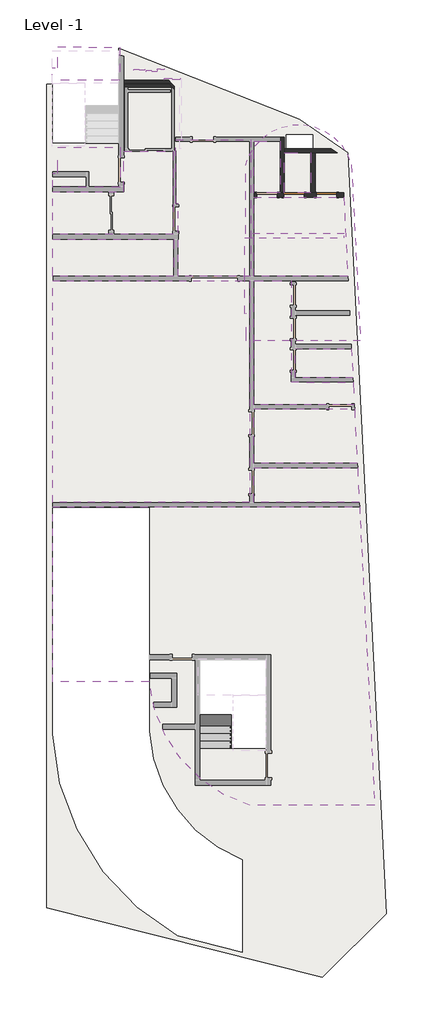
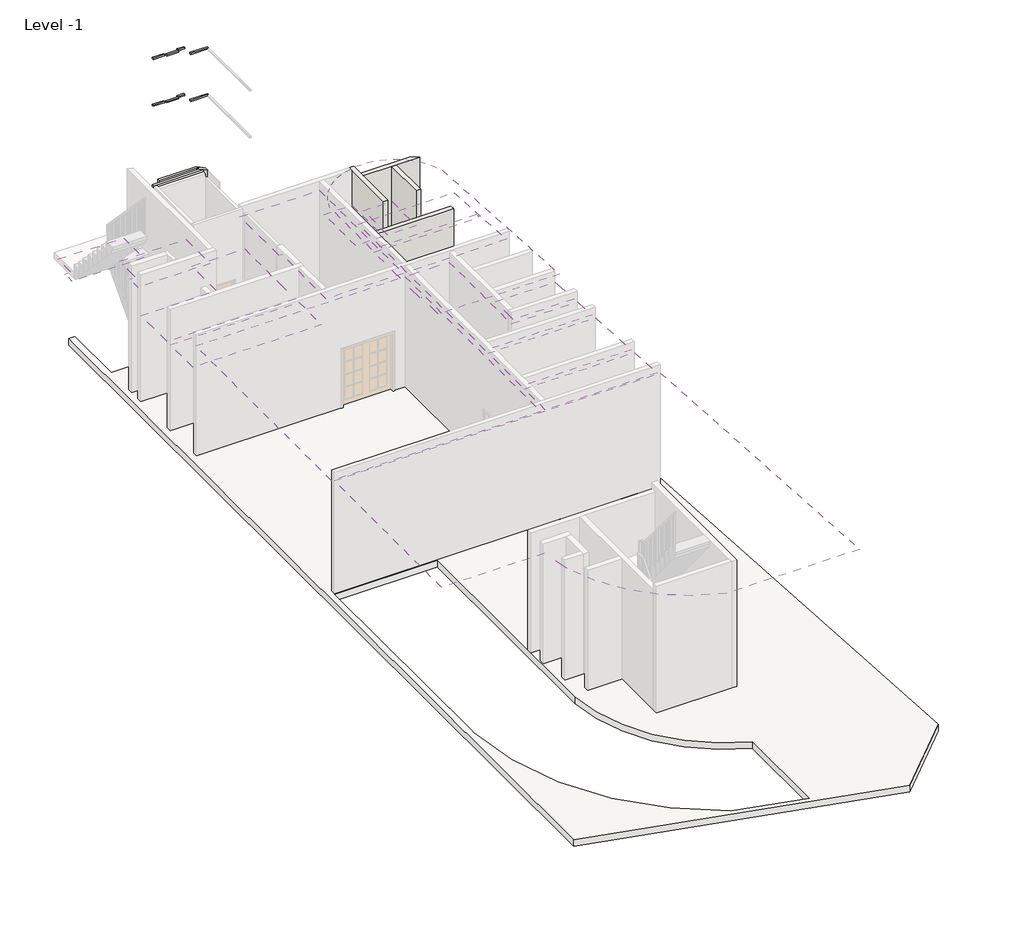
# One storey, part 2 of 3: 15 coverings, 8 proxies, 7 walls, 2 doors, 1 slab, 1 stair flight.
"""IFC4 building model written with IfcOpenShell, lengths in millimetres."""

from ifc_helpers import new_model, si_unit, point, frame, frame_2d, origin, place, context, project, spatial, polyline, circle_curve, trimmed, segment, composite_curve, outline, extrude, faceted_brep, transform, mapped, element, save
from ifc_brep_helpers import plane_surface, cylinder_surface, revolved_surface, advanced_brep
from components import m_single_flush_0762_x_2032mm_6f5f7af1

model = new_model("IFC4")

# Units and contexts
model_context = context("Model", 3, world=origin())
ifc_project = project(units=[si_unit("LENGTHUNIT", "METRE", prefix="MILLI")], contexts=[model_context])

# Site, building, storey
site = spatial("IfcSite", under=ifc_project)
building = spatial("IfcBuilding", under=site)
storey = spatial("IfcBuildingStorey", under=building, Name="Level -1", Elevation=-3500.0)

# Proxies
placement = place(None, origin())
element("IfcBuildingElementProxy", 1, Name="Reveal", ObjectType="Reveal", at=placement, inside=storey, context=model_context, shape_type="SweptSolid", body=[
    extrude(outline(polyline([(2988.093022, 13051.3286894), (2988.093022, 13101.3286894), (3389.832395, 13101.3286894), (3389.832395, 13051.3286894), (2988.093022, 13051.3286894)])), frame((0.0, 0.0, 5411.0), z_axis=(0.0, 0.0, 1.0), x_axis=(1.0, 0.0, 0.0)), (0.0, 0.0, 1.0), 50.0),
])
element("IfcBuildingElementProxy", 2, Name="Reveal", ObjectType="Reveal", at=placement, inside=storey, context=model_context, shape_type="SweptSolid", body=[
    extrude(outline(polyline([(3439.832395, 13006.9409286), (3439.832395, 13056.9409286), (3860.156273, 13056.9409286), (3860.156273, 13006.9409286), (3439.832395, 13006.9409286)])), frame((0.0, 0.0, 5411.0), z_axis=(0.0, 0.0, 1.0), x_axis=(1.0, 0.0, 0.0)), (0.0, 0.0, 1.0), 50.0),
])
element("IfcBuildingElementProxy", 3, Name="Reveal", ObjectType="Reveal", at=placement, inside=storey, context=model_context, shape_type="SweptSolid", body=[
    extrude(outline(polyline([(3860.156273, 13071.3286894), (3860.156273, 13121.3286894), (4110.156273, 13121.3286894), (4110.156273, 13071.3286894), (3860.156273, 13071.3286894)])), frame((0.0, 0.0, 5411.0), z_axis=(0.0, 0.0, 1.0), x_axis=(1.0, 0.0, 0.0)), (0.0, 0.0, 1.0), 50.0),
])
element("IfcBuildingElementProxy", 4, Name="Reveal", ObjectType="Reveal", at=placement, inside=storey, context=model_context, shape_type="SweptSolid", body=[
    extrude(outline(polyline([(4110.156273, 12706.9436225), (4110.156273, 12756.9436225), (4720.156273, 12756.9436225), (4720.156273, 12706.9436225), (4110.156273, 12706.9436225)])), frame((0.0, 0.0, 5411.0), z_axis=(0.0, 0.0, 1.0), x_axis=(1.0, 0.0, 0.0)), (0.0, 0.0, 1.0), 50.0),
])
element("IfcBuildingElementProxy", 5, Name="Reveal", ObjectType="Reveal", at=placement, inside=storey, context=model_context, shape_type="SweptSolid", body=[
    extrude(outline(polyline([(2988.093022, 13051.3286894), (2988.093022, 13101.3286894), (3389.832395, 13101.3286894), (3389.832395, 13051.3286894), (2988.093022, 13051.3286894)])), frame((0.0, 0.0, 3669.8841872), z_axis=(0.0, 0.0, 1.0), x_axis=(1.0, 0.0, 0.0)), (0.0, 0.0, 1.0), 50.0),
])
element("IfcBuildingElementProxy", 6, Name="Reveal", ObjectType="Reveal", at=placement, inside=storey, context=model_context, shape_type="SweptSolid", body=[
    extrude(outline(polyline([(3439.832395, 13006.9409286), (3439.832395, 13056.9409286), (3860.156273, 13056.9409286), (3860.156273, 13006.9409286), (3439.832395, 13006.9409286)])), frame((0.0, 0.0, 3669.8841872), z_axis=(0.0, 0.0, 1.0), x_axis=(1.0, 0.0, 0.0)), (0.0, 0.0, 1.0), 50.0),
])
element("IfcBuildingElementProxy", 7, Name="Reveal", ObjectType="Reveal", at=placement, inside=storey, context=model_context, shape_type="SweptSolid", body=[
    extrude(outline(polyline([(3860.156273, 13071.3286894), (3860.156273, 13121.3286894), (4110.156273, 13121.3286894), (4110.156273, 13071.3286894), (3860.156273, 13071.3286894)])), frame((0.0, 0.0, 3669.8841872), z_axis=(0.0, 0.0, 1.0), x_axis=(1.0, 0.0, 0.0)), (0.0, 0.0, 1.0), 50.0),
])
element("IfcBuildingElementProxy", 8, Name="Reveal", ObjectType="Reveal", at=placement, inside=storey, context=model_context, shape_type="SweptSolid", body=[
    extrude(outline(polyline([(4110.156273, 12706.9436225), (4110.156273, 12756.9436225), (4720.156273, 12756.9436225), (4720.156273, 12706.9436225), (4110.156273, 12706.9436225)])), frame((0.0, 0.0, 3669.8841872), z_axis=(0.0, 0.0, 1.0), x_axis=(1.0, 0.0, 0.0)), (0.0, 0.0, 1.0), 50.0),
])

# Coverings
element("IfcCovering", 9, ObjectType="600 x 600mm Grid", at=placement, inside=storey, context=model_context, shape_type="SweptSolid", body=[
    extrude(outline(polyline([(-50.0290025, -3072.9476624), (-50.0290025, 5202.6968455), (7299.9434137, 5202.6968455), (7299.9434137, -3072.9476624), (-50.0290025, -3072.9476624)])), frame((0.0, 0.0, 600.0), z_axis=(0.0, 0.0, 1.0), x_axis=(1.0, 0.0, 0.0)), (0.0, 0.0, 1.0), 52.0),
])
element("IfcCovering", 10, ObjectType="600 x 600mm Grid", at=placement, inside=storey, context=model_context, shape_type="SweptSolid", body=[
    extrude(outline(composite_curve([segment(polyline([(-50.0290025, -3232.9476624), (11404.9288213, -3232.9476624), (11972.1615045, -14376.8259975), (7309.7008111, -14376.8259975)]), True, "CONTINUOUS"), segment(trimmed(circle_curve(frame_2d((8889.126685, -9261.3994215)), 5353.7066734), [point((7309.7008111, -14376.8259975))], [point((3559.7912334, -9771.6530742))], False, "CARTESIAN"), True, "CONTINUOUS"), segment(polyline([(3559.7912334, -9771.6530742), (-50.0290025, -9771.6530742), (-50.0290025, -3232.9476624)]), True, "CONTINUOUS")], self_intersect=False), holes=[polyline([(8099.9667664, -12235.6929429), (8099.9667664, -8760.5298497), (5269.992527, -8760.5298497), (5269.992527, -11535.2406086), (5269.992527, -12235.6929429), (8099.9667664, -12235.6929429)])]), frame((0.0, 0.0, 700.0), z_axis=(0.0, 0.0, 1.0), x_axis=(1.0, 0.0, 0.0)), (0.0, 0.0, 1.0), 52.0),
])
element("IfcCovering", 11, ObjectType="600 x 600mm Grid", at=placement, inside=storey, context=model_context, shape_type="SweptSolid", body=[
    extrude(outline(polyline([(9009.9434137, 2674.1604885), (11104.4508989, 2670.2548647), (11159.9383106, 1580.1467241), (9009.9434137, 1584.1583086), (9009.9434137, 2674.1604885)])), frame((0.0, 0.0, 600.0), z_axis=(0.0, 0.0, 1.0), x_axis=(1.0, 0.0, 0.0)), (0.0, 0.0, 1.0), 52.0),
])
element("IfcCovering", 12, ObjectType="600 x 600mm Grid", at=placement, inside=storey, context=model_context, shape_type="SweptSolid", body=[
    extrude(outline(polyline([(8849.9434137, 1424.4565673), (11168.0832316, 1420.1312483), (11210.8911696, 579.1246079), (7459.9434137, 579.1246079), (7459.9434137, 5202.6968455), (8849.9434137, 5202.6968455), (8849.9434137, 1424.4565673)])), frame((0.0, 0.0, 600.0), z_axis=(0.0, 0.0, 1.0), x_axis=(1.0, 0.0, 0.0)), (0.0, 0.0, 1.0), 52.0),
])
element("IfcCovering", 13, ObjectType="600 x 600mm Grid", at=placement, inside=storey, context=model_context, shape_type="SweptSolid", body=[
    extrude(outline(polyline([(7459.9434137, 419.1246079), (11219.0353028, 419.1246079), (11322.4694728, -1612.9476624), (7459.9434137, -1612.9476624), (7459.9434137, 419.1246079)])), frame((0.0, 0.0, 600.0), z_axis=(0.0, 0.0, 1.0), x_axis=(1.0, 0.0, 0.0)), (0.0, 0.0, 1.0), 52.0),
])
element("IfcCovering", 14, ObjectType="600 x 600mm Grid", at=placement, inside=storey, context=model_context, shape_type="SweptSolid", body=[
    extrude(outline(polyline([(7459.9434137, -1772.9476624), (11330.613606, -1772.9476624), (11396.7846881, -3072.9476624), (7459.9434137, -3072.9476624), (7459.9434137, -1772.9476624)])), frame((0.0, 0.0, 600.0), z_axis=(0.0, 0.0, 1.0), x_axis=(1.0, 0.0, 0.0)), (0.0, 0.0, 1.0), 52.0),
])
element("IfcCovering", 15, ObjectType="600 x 600mm Grid", at=placement, inside=storey, context=model_context, shape_type="SweptSolid", body=[
    extrude(outline(polyline([(7459.9434137, 8319.9753316), (10816.8754244, 8319.9753316), (10967.4033609, 5362.6968455), (7459.9434137, 5362.6968455), (7459.9434137, 8319.9753316)])), frame((0.0, 0.0, 600.0), z_axis=(0.0, 0.0, 1.0), x_axis=(1.0, 0.0, 0.0)), (0.0, 0.0, 1.0), 52.0),
])
element("IfcCovering", 16, ObjectType="600 x 600mm Grid", at=placement, inside=storey, context=model_context, shape_type="SweptSolid", body=[
    extrude(outline(polyline([(-50.0290025, 5362.6968455), (-50.0290025, 6751.9670663), (4469.6770156, 6751.9670663), (4469.6770156, 5362.6968455), (-50.0290025, 5362.6968455)])), frame((0.0, 0.0, -300.0), z_axis=(0.0, 0.0, 1.0), x_axis=(1.0, 0.0, 0.0)), (0.0, 0.0, 1.0), 52.0),
])
element("IfcCovering", 17, ObjectType="600 x 600mm Grid", at=placement, inside=storey, context=model_context, shape_type="SweptSolid", body=[
    extrude(outline(polyline([(-50.0290025, 6931.9670663), (-50.0290025, 8531.9436159), (2599.6668671, 8531.9436159), (2599.6668671, 10031.9436225), (4454.958768, 10031.9436225), (4454.958768, 8066.9242252), (4459.6770164, 8066.9242252), (4459.6770164, 6931.9670663), (-50.0290025, 6931.9670663)])), frame((0.0, 0.0, -300.0), z_axis=(0.0, 0.0, 1.0), x_axis=(1.0, 0.0, 0.0)), (0.0, 0.0, 1.0), 52.0),
])
element("IfcCovering", 18, ObjectType="600 x 600mm Grid", at=placement, inside=storey, context=model_context, shape_type="SweptSolid", body=[
    extrude(outline(polyline([(7459.9434137, 8479.9753316), (7459.9434137, 10400.8522913), (8438.9783115, 10400.8522913), (8438.9783115, 8479.9753316), (7459.9434137, 8479.9753316)])), frame((0.0, 0.0, -300.0), z_axis=(0.0, 0.0, 1.0), x_axis=(1.0, 0.0, 0.0)), (0.0, 0.0, 1.0), 52.0),
])
element("IfcCovering", 19, ObjectType="600 x 600mm Grid", at=placement, inside=storey, context=model_context, shape_type="SweptSolid", body=[
    extrude(outline(polyline([(9588.9783115, 9974.899122), (9588.9783115, 8479.9753316), (8598.9783115, 8479.9753316), (8598.9783115, 9974.899122), (9588.9783115, 9974.899122)])), frame((0.0, 0.0, -300.0), z_axis=(0.0, 0.0, 1.0), x_axis=(1.0, 0.0, 0.0)), (0.0, 0.0, 1.0), 52.0),
])
element("IfcCovering", 20, ObjectType="600 x 600mm Grid", at=placement, inside=storey, context=model_context, shape_type="SweptSolid", body=[
    extrude(outline(polyline([(4539.958768, 8066.9242252), (4539.958768, 10466.9242252), (7339.6770164, 10466.9242252), (7339.6770164, 5366.9242252), (4639.6770164, 5366.9242252), (4639.6770164, 8066.9242252), (4539.958768, 8066.9242252)])), frame((0.0, 0.0, 600.0), z_axis=(0.0, 0.0, 1.0), x_axis=(1.0, 0.0, 0.0)), (0.0, 0.0, 1.0), 52.0),
])
element("IfcCovering", 21, ObjectType="600 x 600mm Grid", at=placement, inside=storey, context=model_context, shape_type="SweptSolid", body=[
    extrude(outline(composite_curve([segment(polyline([(7150.5392732, 6948.450989), (7150.5392732, 9509.6119752)]), True, "CONTINUOUS"), segment(trimmed(circle_curve(frame_2d((9131.2105116, 8980.9897456)), 2050.0000039), [point((7150.5392732, 9509.6119752))], [point((11105.4759403, 9533.0549888))], False, "CARTESIAN"), True, "CONTINUOUS"), segment(polyline([(11105.4759403, 9533.0549888), (11440.2894881, 2957.3506855), (7185.1048556, 2957.3506855), (7185.1048556, 3970.7828627), (7130.5392732, 3970.7828627), (7130.5392732, 5170.7828627), (7130.5392732, 6170.7828627), (7130.5392732, 6798.4082432), (10838.0678893, 6806.2697987), (10837.7498255, 6956.2694615), (7150.5392732, 6948.450989)]), True, "CONTINUOUS")], self_intersect=False)), frame((0.0, 0.0, 600.0), z_axis=(0.0, 0.0, 1.0), x_axis=(1.0, 0.0, 0.0)), (0.0, 0.0, 1.0), 52.0),
])
element("IfcCovering", 22, ObjectType="600 x 600mm Grid", at=placement, inside=storey, context=model_context, shape_type="SweptSolid", body=[
    extrude(outline(polyline([(2481.8607589, 10179.4957281), (2481.8607589, 8696.8748746), (-50.0421304, 8696.8748746), (-50.0421304, 9219.4957281), (149.9709975, 9219.4957281), (149.9709975, 10179.4957281), (2481.8607589, 10179.4957281)])), frame((0.0, 0.0, 650.0), z_axis=(0.0, 0.0, 1.0), x_axis=(1.0, 0.0, 0.0)), (0.0, 0.0, 1.0), 52.0),
])
element("IfcCovering", 23, ObjectType="600 x 600mm Grid", at=placement, inside=storey, context=model_context, shape_type="SweptSolid", body=[
    extrude(outline(polyline([(2454.9743495, 12688.8107611), (-60.0421304, 12688.8107611), (-60.0421304, 13143.419171), (149.9709975, 13143.419171), (149.9709975, 13943.419171), (2454.9743495, 13908.8107611), (2454.9743495, 12688.8107611)])), frame((0.0, 0.0, -1550.0), z_axis=(0.0, 0.0, 1.0), x_axis=(1.0, 0.0, 0.0)), (0.0, 0.0, 1.0), 52.0),
])

# Doors
m_single_flush_0762_x_2032mm_shape = m_single_flush_0762_x_2032mm_6f5f7af1(model_context)
element("IfcDoor", 24, ObjectType="M_Single-Flush : 0762 x 2032mm", at=placement, inside=storey, context=model_context, shape_type="MappedRepresentation", body=[
    mapped(m_single_flush_0762_x_2032mm_shape, transform((8959.7195871, 8399.9753316, -3500.0), x_axis=(-1.0, 0.0, 0.0), y_axis=(0.0, -1.0, 0.0), z_axis=(0.0, 0.0, 1.0))),
])
element("IfcDoor", 25, ObjectType="M_Single-Flush : 0762 x 2032mm", at=placement, inside=storey, context=model_context, shape_type="MappedRepresentation", body=[
    mapped(m_single_flush_0762_x_2032mm_shape, transform((10169.9783115, 8399.9753316, -3500.0), x_axis=(-1.0, 0.0, 0.0), y_axis=(0.0, -1.0, 0.0), z_axis=(0.0, 0.0, 1.0))),
])

# Slab
element("IfcSlab", 26, ObjectType="Standard Timber-sang Finish 2", at=placement, inside=storey, context=model_context, shape_type="AdvancedBrep", body=[
    advanced_brep(
    [(9156.5694815, 11238.6298521, -3741.0), (10957.1933497, 9989.3657475, -3741.0), (12403.1153427, -18417.281555, -3741.0), (10022.4900241, -20797.9068736, -3741.0), (-275.0290025, -18194.9820731, -3741.0), (-275.0290025, 12531.9436225, -3741.0), (-60.0290025, 12531.9436225, -3741.0), (-60.0290025, 10328.8506586, -3741.0), (2419.6668671, 10328.8506586, -3741.0), (2419.6668671, 12531.9436225, -3741.0), (2424.9709975, 12531.9436225, -3741.0), (2424.9709975, 13884.1086008, -3741.0), (4630.7168036, -19241.4894179, -3741.0), (7033.8183565, -19848.9262785, -3741.0), (7033.8183565, -19810.3775142, -3741.0), (7033.8183565, -16402.4446286, -3741.0), (3549.4089841, -11616.6597812, -3741.0), (3549.4089841, -3268.2489802, -3741.0), (-50.5910159, -3268.2489802, -3741.0), (-50.5910159, -11648.2489802, -3741.0), (-50.5910159, -11713.7810095, -3741.0), (7909.9709976, -8940.5298497, -3741.0), (5449.992527, -8940.5298497, -3741.0), (5449.992527, -12235.6929429, -3741.0), (7909.9709976, -12235.6929429, -3741.0), (9656.2956563, 10654.899122, -3741.0), (8676.2956563, 10654.899122, -3741.0), (8676.2956563, 10114.899122, -3741.0), (8676.2956563, 10104.899122, -3741.0), (9326.0873915, 10104.899122, -3741.0), (9656.2956563, 10104.899122, -3741.0), (10957.1933497, 9989.3657475, -3500.0), (9156.5694815, 11238.6298521, -3500.0), (2424.9709975, 13884.1086008, -3500.0), (2424.9709975, 12531.9436225, -3500.0), (2419.6668671, 12531.9436225, -3500.0), (2419.6668671, 10328.8506586, -3500.0), (-60.0290025, 10328.8506586, -3500.0), (-60.0290025, 12531.9436225, -3500.0), (-275.0290025, 12531.9436225, -3500.0), (-275.0290025, -18194.9820731, -3500.0), (10022.4900241, -20797.9068736, -3500.0), (12403.1153427, -18417.281555, -3500.0), (7033.8183565, -19848.9262785, -3500.0), (4630.7168036, -19241.4894179, -3500.0), (-50.5910159, -11713.7810095, -3500.0), (-50.5910159, -11648.2489802, -3500.0), (-50.5910159, -3268.2489802, -3500.0), (3549.4089841, -3268.2489802, -3500.0), (3549.4089841, -11616.6597812, -3500.0), (7033.8183565, -16402.4446286, -3500.0), (7033.8183565, -19810.3775142, -3500.0), (5449.992527, -8940.5298497, -3500.0), (7909.9709976, -8940.5298497, -3500.0), (7909.9709976, -12235.6929429, -3500.0), (5449.992527, -12235.6929429, -3500.0), (8676.2956563, 10654.899122, -3500.0), (9656.2956563, 10654.899122, -3500.0), (9656.2956563, 10104.899122, -3500.0), (9326.0873915, 10104.899122, -3500.0), (8676.2956563, 10104.899122, -3500.0), (8676.2956563, 10114.899122, -3500.0)],
    [
        (0, 1),
        (1, 2),
        (2, 3),
        (3, 4),
        (4, 5),
        (5, 6),
        (6, 7),
        (7, 8),
        (8, 9),
        (9, 10),
        (10, 11),
        (11, 0),
        (12, 13),
        (13, 14),
        (14, 15),
        (15, 16, circle_curve(frame((9044.1542392, -11277.4219597, -3741.0), z_axis=(0.0, 0.0, -1.0), x_axis=(1.0, 0.0, 0.0)), 5505.2073274)),
        (16, 17),
        (17, 18),
        (18, 19),
        (19, 20),
        (20, 12, circle_curve(frame((9044.1542392, -11277.4219597, -3741.0), z_axis=(0.0, 0.0, 1.0), x_axis=(1.0, 0.0, 0.0)), 9105.2073274)),
        (21, 22),
        (22, 23),
        (23, 24),
        (24, 21),
        (25, 26),
        (26, 27),
        (27, 28),
        (28, 29),
        (29, 30),
        (30, 25),
        (31, 32),
        (32, 33),
        (33, 34),
        (34, 35),
        (35, 36),
        (36, 37),
        (37, 38),
        (38, 39),
        (39, 40),
        (40, 41),
        (41, 42),
        (42, 31),
        (43, 44),
        (44, 45, circle_curve(frame((9044.1542392, -11277.4219597, -3500.0), z_axis=(0.0, 0.0, -1.0), x_axis=(1.0, 0.0, 0.0)), 9105.2073274)),
        (45, 46),
        (46, 47),
        (47, 48),
        (48, 49),
        (49, 50, circle_curve(frame((9044.1542392, -11277.4219597, -3500.0), z_axis=(0.0, 0.0, 1.0), x_axis=(1.0, 0.0, 0.0)), 5505.2073274)),
        (50, 51),
        (51, 43),
        (52, 53),
        (53, 54),
        (54, 55),
        (55, 52),
        (56, 57),
        (57, 58),
        (58, 59),
        (59, 60),
        (60, 61),
        (61, 56),
        (0, 32),
        (31, 1),
        (42, 2),
        (41, 3),
        (40, 4),
        (39, 5),
        (11, 33),
        (12, 44),
        (43, 13),
        (50, 15),
        (49, 16),
        (18, 47),
        (46, 19),
        (45, 20),
        (37, 7),
        (6, 38),
        (36, 8),
        (35, 9),
        (21, 53),
        (52, 22),
        (55, 23),
        (54, 24),
        (25, 57),
        (56, 26),
        (60, 28),
        (58, 30),
        (17, 48),
        (34, 10),
    ],
    [
        plane_surface(frame((9156.5694815, 11238.6298521, -3741.0), z_axis=(0.0, 0.0, -1.0000000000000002), x_axis=(0.82161982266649, -0.5700358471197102, 0.0))),
        plane_surface(frame((9156.5694815, 11238.6298521, -3500.0), z_axis=(0.0, 0.0, 1.0000000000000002), x_axis=(-0.82161982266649, 0.5700358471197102, 0.0))),
        plane_surface(frame((9156.5694815, 11238.6298521, -3741.0), z_axis=(0.5700358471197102, 0.82161982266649, 0.0), x_axis=(0.0, 0.0, 1.0))),
        plane_surface(frame((10957.1933497, 9989.3657475, -3741.0), z_axis=(0.9987070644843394, 0.05083502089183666, 0.0), x_axis=(0.0, 0.0, 1.0))),
        plane_surface(frame((12403.1153427, -18417.281555, -3741.0), z_axis=(0.7071067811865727, -0.7071067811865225, 0.0), x_axis=(0.0, 0.0, 1.0))),
        plane_surface(frame((10022.4900241, -20797.9068736, -3741.0), z_axis=(-0.24506421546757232, -0.9695068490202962, 0.0), x_axis=(0.0, 0.0, 1.0))),
        plane_surface(frame((-275.0290025, -18194.9820731, -3741.0), z_axis=(-1.0, 0.0, 0.0), x_axis=(0.0, 0.0, 1.0))),
        plane_surface(frame((2424.9709975, 13884.1086008, -3741.0), z_axis=(0.36576282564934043, 0.9307080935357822, 0.0), x_axis=(0.0, 0.0, 1.0))),
        plane_surface(frame((4630.7168036, -19241.4894179, -3741.0), z_axis=(0.24506421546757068, 0.9695068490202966, 0.0), x_axis=(0.0, 0.0, 1.0))),
        plane_surface(frame((7033.8183565, -19848.9262785, -3741.0), z_axis=(-1.0, 0.0, 0.0), x_axis=(0.0, 0.0, 1.0))),
        cylinder_surface(frame((9044.1542392, -11277.4219597, -3500.0), z_axis=(0.0, 0.0, -1.0), x_axis=(1.0, 0.0, 0.0)), 5505.2073274),
        plane_surface(frame((-50.5910159, -8447.4312466, -3741.0), z_axis=(1.0, 0.0, 0.0), x_axis=(0.0, 0.0, 1.0))),
        plane_surface(frame((-50.5910159, -11648.2489802, -3741.0), z_axis=(1.0, 0.0, 0.0), x_axis=(0.0, 0.0, 1.0))),
        revolved_surface(polyline([(18149.361566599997, -11277.4219597, -3500.0), (18149.361566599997, -11277.4219597, -3741.0)]), (9044.1542392, -11277.4219597, -3500.0), (0.0, 0.0, 1.0)),
        plane_surface(frame((-60.0290025, 12568.8506586, 10804.8), z_axis=(1.0, 0.0, 0.0), x_axis=(0.0, 0.0, -1.0))),
        plane_surface(frame((-60.0290025, 10328.8506586, 10804.8), z_axis=(0.0, 1.0, 0.0), x_axis=(0.0, 0.0, -1.0))),
        plane_surface(frame((2419.6668671, 10328.8506586, 10804.8), z_axis=(-1.0, 0.0, 0.0), x_axis=(0.0, 0.0, -1.0))),
        plane_surface(frame((7909.9709976, -8940.5298497, 10804.8), z_axis=(0.0, -1.0, 0.0), x_axis=(0.0, 0.0, -1.0))),
        plane_surface(frame((5449.992527, -8940.5298497, 10804.8), z_axis=(1.0, 0.0, 0.0), x_axis=(0.0, 0.0, -1.0))),
        plane_surface(frame((5449.992527, -12235.6929429, 10804.8), z_axis=(0.0, 1.0, 0.0), x_axis=(0.0, 0.0, -1.0))),
        plane_surface(frame((7909.9709976, -12235.6929429, 10804.8), z_axis=(-1.0, 0.0, 0.0), x_axis=(0.0, 0.0, -1.0))),
        plane_surface(frame((9656.2956563, 10654.899122, 7304.8), z_axis=(0.0, -1.0, 0.0), x_axis=(0.0, 0.0, -1.0))),
        plane_surface(frame((8676.2956563, 10654.899122, 7304.8), z_axis=(1.0, 0.0, 0.0), x_axis=(0.0, 0.0, -1.0))),
        plane_surface(frame((8676.2956563, 10104.899122, 7304.8), z_axis=(0.0, 1.0, 0.0), x_axis=(0.0, 0.0, -1.0))),
        plane_surface(frame((9656.2956563, 10104.899122, 7304.8), z_axis=(-1.0, 0.0, 0.0), x_axis=(0.0, 0.0, -1.0))),
        plane_surface(frame((3549.4089841, -3268.2489802, 304.8), z_axis=(0.0, -1.0, 0.0), x_axis=(0.0, 0.0, -1.0))),
        plane_surface(frame((3549.4089841, -11616.6597812, 304.8), z_axis=(-1.0, 0.0, 0.0), x_axis=(0.0, 0.0, -1.0))),
        plane_surface(frame((-275.0290025, 12531.9436225, -3741.0), z_axis=(0.0, 1.0, 0.0), x_axis=(0.0, 0.0, 1.0))),
        plane_surface(frame((2424.9709975, 12531.9436225, -3741.0), z_axis=(-1.0, 0.0, 0.0), x_axis=(0.0, 0.0, 1.0))),
    ],
    [
        (0, [[1, 2, 3, 4, 5, 6, 7, 8, 9, 10, 11, 12], [13, 14, 15, 16, 17, 18, 19, 20, 21], [22, 23, 24, 25], [26, 27, 28, 29, 30, 31]]),
        (1, [[32, 33, 34, 35, 36, 37, 38, 39, 40, 41, 42, 43], [44, 45, 46, 47, 48, 49, 50, 51, 52], [53, 54, 55, 56], [57, 58, 59, 60, 61, 62]]),
        (2, [[-1, 63, -32, 64]]),
        (3, [[-2, -64, -43, 65]]),
        (4, [[-3, -65, -42, 66]]),
        (5, [[-4, -66, -41, 67]]),
        (6, [[-5, -67, -40, 68]]),
        (7, [[-12, 69, -33, -63]]),
        (8, [[-13, 70, -44, 71]]),
        (9, [[-71, -52, -51, 72, -15, -14]]),
        (10, [[-72, -50, 73, -16]]),
        (11, [[74, -47, 75, -19]]),
        (12, [[-20, -75, -46, 76]]),
        (13, [[-21, -76, -45, -70]]),
        (14, [[77, -7, 78, -38]]),
        (15, [[-77, -37, 79, -8]]),
        (16, [[-79, -36, 80, -9]]),
        (17, [[81, -53, 82, -22]]),
        (18, [[-82, -56, 83, -23]]),
        (19, [[-83, -55, 84, -24]]),
        (20, [[-81, -25, -84, -54]]),
        (21, [[85, -57, 86, -26]]),
        (22, [[-86, -62, -61, 87, -28, -27]]),
        (23, [[-87, -60, -59, 88, -30, -29]]),
        (24, [[-85, -31, -88, -58]]),
        (25, [[89, -48, -74, -18]]),
        (26, [[-89, -17, -73, -49]]),
        (27, [[-68, -39, -78, -6]]),
        (27, [[90, -10, -80, -35]]),
        (28, [[-11, -90, -34, -69]]),
    ],
),
])

# Stair flight
element("IfcStairFlight", 27, ObjectType="190mm Depth", at=placement, inside=storey, context=model_context, shape_type="Brep", body=[
    faceted_brep([(5389.9709976, -11955.6929429, -3164.2857143), (5389.9709976, -12235.6929429, -3164.2857143), (6609.9709976, -12235.6929429, -3164.2857143), (6609.9709976, -11955.6929429, -3164.2857143), (5389.9709976, -11955.6929429, -3460.9262871), (5389.9709976, -11988.2820822, -3500.0), (5389.9709976, -12235.6929429, -3500.0), (6609.9709976, -12235.6929429, -3500.0), (6609.9709976, -11988.2820822, -3500.0), (6609.9709976, -11955.6929429, -3460.9262871), (5389.9709976, -11675.6929429, -2828.5714286), (5389.9709976, -11955.6929429, -2828.5714286), (6609.9709976, -11955.6929429, -2828.5714286), (6609.9709976, -11675.6929429, -2828.5714286), (5389.9709976, -11675.6929429, -3125.2120014), (6609.9709976, -11675.6929429, -3125.2120014), (5389.9709976, -11395.6929429, -2492.8571429), (5389.9709976, -11675.6929429, -2492.8571429), (6609.9709976, -11675.6929429, -2492.8571429), (6609.9709976, -11395.6929429, -2492.8571429), (5389.9709976, -11395.6929429, -2789.4977156), (6609.9709976, -11395.6929429, -2789.4977156), (5389.9709976, -11115.6929429, -2157.1428571), (5389.9709976, -11395.6929429, -2157.1428571), (6609.9709976, -11395.6929429, -2157.1428571), (6609.9709976, -11115.6929429, -2157.1428571), (5389.9709976, -11115.6929429, -2453.7834299), (6609.9709976, -11115.6929429, -2453.7834299), (5389.9709976, -10835.6929429, -1821.4285714), (5389.9709976, -11115.6929429, -1821.4285714), (6609.9709976, -11115.6929429, -1821.4285714), (6609.9709976, -10835.6929429, -1821.4285714), (5389.9709976, -10835.6929429, -2118.0691442), (6609.9709976, -10835.6929429, -2118.0691442), (5389.9709976, -10555.6929429, -1485.7142857), (5389.9709976, -10835.6929429, -1485.7142857), (6609.9709976, -10835.6929429, -1485.7142857), (6609.9709976, -10555.6929429, -1485.7142857), (5389.9709976, -10555.6929429, -1782.3548585), (6609.9709976, -10555.6929429, -1782.3548585), (5389.9709976, -10555.6929429, -1150.0), (6609.9709976, -10555.6929429, -1150.0), (6609.9709976, -10175.6929429, -1150.0), (5389.9709976, -10175.6929429, -1150.0), (5389.9709976, -10175.6929429, -1250.0), (5389.9709976, -10275.6929429, -1250.0), (5389.9709976, -10275.6929429, -1446.6405728), (6609.9709976, -10275.6929429, -1446.6405728), (6609.9709976, -10275.6929429, -1250.0), (6609.9709976, -10175.6929429, -1250.0)], [[[0, 1, 2, 3]], [[1, 0, 4, 5, 6]], [[2, 1, 6, 7]], [[3, 2, 7, 8, 9]], [[10, 11, 12, 13]], [[11, 10, 14, 4, 0]], [[0, 3, 12, 11]], [[13, 12, 3, 9, 15]], [[16, 17, 18, 19]], [[17, 16, 20, 14, 10]], [[10, 13, 18, 17]], [[19, 18, 13, 15, 21]], [[22, 23, 24, 25]], [[23, 22, 26, 20, 16]], [[16, 19, 24, 23]], [[25, 24, 19, 21, 27]], [[28, 29, 30, 31]], [[29, 28, 32, 26, 22]], [[22, 25, 30, 29]], [[31, 30, 25, 27, 33]], [[34, 35, 36, 37]], [[35, 34, 38, 32, 28]], [[28, 31, 36, 35]], [[37, 36, 31, 33, 39]], [[40, 41, 42, 43]], [[40, 43, 44, 45, 46, 38, 34]], [[34, 37, 41, 40]], [[42, 41, 37, 39, 47, 48, 49]], [[48, 47, 46, 45]], [[7, 6, 5, 8]], [[8, 5, 4, 14, 20, 26, 32, 38, 46, 47, 39, 33, 27, 21, 15, 9]], [[49, 48, 45, 44]], [[49, 44, 43, 42]]]),
])

# Walls
element("IfcWall", 28, ObjectType="Generic - 10cm-gypsu-2boith", at=placement, inside=storey, context=model_context, shape_type="Brep", body=[
    faceted_brep([(4295.8861539, 12531.9436225, -3500.0), (2649.6769958, 12531.9436225, -3500.0), (2649.6769958, 12531.9436225, 1200.0), (4295.8861539, 12531.9436225, 1200.0), (4395.8861539, 12431.9436225, -3500.0), (4395.8861539, 12431.9436225, 1200.0), (2749.6769958, 12431.9436225, 1200.0), (2649.6769958, 12431.9436225, 1200.0), (2649.6769958, 12431.9436225, -3500.0), (2749.6769958, 12431.9436225, -3500.0)], [[[0, 1, 2, 3]], [[4, 5, 6, 7, 8, 9]], [[1, 0, 4, 9, 8]], [[3, 2, 7, 6, 5]], [[0, 3, 5, 4]], [[2, 1, 8, 7]]]),
])
element("IfcWall", 29, ObjectType="Generic - 10cm-gypsu-2boith", at=placement, inside=storey, context=model_context, shape_type="Brep", body=[
    faceted_brep([(4287.3075102, 12681.9436225, -3500.0), (2600.9917149, 12681.9436225, -3500.0), (2600.9917149, 12681.9436225, 959.0), (2940.0008706, 12681.9436225, 959.0), (2940.0008706, 12681.9436225, 1200.0), (4287.3075102, 12681.9436225, 1200.0), (2600.9917149, 12581.9436225, -3500.0), (4245.8861539, 12581.9436225, -3500.0), (4387.3075102, 12581.9436225, -3500.0), (4387.3075102, 12581.9436225, 959.0), (2600.9917149, 12581.9436225, 959.0), (2940.0008706, 12596.9436225, 1200.0), (4372.3075102, 12596.9436225, 1200.0), (4372.3075102, 12596.9436225, 959.0), (2940.0008706, 12596.9436225, 959.0)], [[[0, 1, 2, 3, 4, 5]], [[6, 7, 8, 9, 10]], [[1, 0, 8, 7, 6]], [[1, 6, 10, 2]], [[5, 4, 11, 12]], [[0, 5, 12, 13, 9, 8]], [[13, 14, 3, 2, 10, 9]], [[14, 11, 4, 3]], [[11, 14, 13, 12]]]),
])
element("IfcWall", 30, ObjectType="Generic - 10cm-gypsu-2boith", at=placement, inside=storey, context=model_context, shape_type="Brep", body=[
    faceted_brep([(4499.6302337, 12469.6208989, -3500.0), (4387.3075102, 12581.9436225, -3500.0), (4387.3075102, 12581.9436225, 959.0), (4387.3075102, 12581.9436225, 1200.0), (4499.6302337, 12469.6208989, 1200.0), (4499.6302337, 12328.1995427, -3500.0), (4499.6302337, 12328.1995427, 1200.0), (4484.6302337, 12343.1995427, 1200.0), (4395.8861539, 12431.9436225, 1200.0), (4295.8861539, 12531.9436225, 1200.0), (4245.8861539, 12581.9436225, 1200.0), (4245.8861539, 12581.9436225, -3500.0), (4295.8861539, 12531.9436225, -3500.0), (4395.8861539, 12431.9436225, -3500.0), (4399.6302337, 12428.1995427, -3500.0)], [[[0, 1, 2, 3, 4]], [[5, 6, 7, 8, 9, 10, 11, 12, 13, 14]], [[1, 0, 5, 14, 13, 12, 11]], [[4, 3, 10, 9, 8, 7, 6]], [[3, 2, 1, 11, 10]], [[0, 4, 6, 5]]]),
])
element("IfcWall", 31, ObjectType="Generic - 20cm-granit2side", at=placement, inside=storey, context=model_context, shape_type="Brep", body=[
    faceted_brep([(9788.9783115, 8479.9753316, -1468.0), (9788.9783115, 8479.9753316, -3500.0), (9748.9783115, 8479.9753316, -3500.0), (9588.9783115, 8479.9753316, -3500.0), (9340.7195871, 8479.9753316, -3500.0), (9340.7195871, 8479.9753316, -1468.0), (8578.7195871, 8479.9753316, -1468.0), (8578.7195871, 8479.9753316, -3500.0), (8438.9783115, 8479.9753316, -3500.0), (8330.4608626, 8479.9753316, -3500.0), (8330.4608626, 8479.9753316, -1468.0), (7568.4608626, 8479.9753316, -1468.0), (7568.4608626, 8479.9753316, -3500.0), (7459.9434137, 8479.9753316, -3500.0), (7459.9434137, 8479.9753316, 0.0), (10808.7312912, 8479.9753316, 0.0), (10808.7312912, 8479.9753316, -3500.0), (10550.9783115, 8479.9753316, -3500.0), (10550.9783115, 8479.9753316, -1468.0), (9340.7195871, 8319.9753316, -3500.0), (9788.9783115, 8319.9753316, -3500.0), (9788.9783115, 8319.9753316, -1468.0), (10550.9783115, 8319.9753316, -1468.0), (10550.9783115, 8319.9753316, -3500.0), (10816.8754244, 8319.9753316, -3500.0), (10816.8754244, 8319.9753316, 0.0), (7459.9434137, 8319.9753316, 0.0), (7459.9434137, 8319.9753316, -3500.0), (7568.4608626, 8319.9753316, -3500.0), (7568.4608626, 8319.9753316, -1468.0), (8330.4608626, 8319.9753316, -1468.0), (8330.4608626, 8319.9753316, -3500.0), (8578.7195871, 8319.9753316, -3500.0), (8578.7195871, 8319.9753316, -1468.0), (9340.7195871, 8319.9753316, -1468.0)], [[[0, 1, 2, 3, 4, 5, 6, 7, 8, 9, 10, 11, 12, 13, 14, 15, 16, 17, 18]], [[19, 20, 21, 22, 23, 24, 25, 26, 27, 28, 29, 30, 31, 32, 33, 34]], [[13, 12, 28, 27]], [[9, 8, 7, 32, 31]], [[17, 16, 24, 23]], [[4, 3, 2, 1, 20, 19]], [[15, 14, 26, 25]], [[14, 13, 27, 26]], [[16, 15, 25, 24]], [[29, 28, 12, 11]], [[30, 29, 11, 10]], [[31, 30, 10, 9]], [[33, 32, 7, 6]], [[34, 33, 6, 5]], [[19, 34, 5, 4]], [[21, 20, 1, 0]], [[22, 21, 0, 18]], [[23, 22, 18, 17]]]),
])
element("IfcWall", 32, ObjectType="Generic - 20cm-granit2side", at=placement, inside=storey, context=model_context, shape_type="Brep", body=[
    faceted_brep([(8598.9783115, 8479.9753316, -3500.0), (8598.9783115, 9974.899122, -3500.0), (8598.9783115, 10134.899122, -3500.0), (8598.9783115, 10560.8522913, -3500.0), (8598.9783115, 10560.8522913, 1000.0), (8598.9783115, 10134.899122, 1000.0), (8598.9783115, 9974.899122, 1000.0), (8598.9783115, 8479.9753316, 1000.0), (8438.9783115, 8479.9753316, -3500.0), (8438.9783115, 8479.9753316, 1000.0), (8438.9783115, 10400.8522913, 1000.0), (8438.9783115, 10560.8522913, 1000.0), (8438.9783115, 10560.8522913, -3500.0), (8438.9783115, 10400.8522913, -3500.0), (8578.7195871, 8479.9753316, -3500.0)], [[[0, 1, 2, 3, 4, 5, 6, 7]], [[8, 9, 10, 11, 12, 13]], [[3, 2, 1, 0, 14, 8, 13, 12]], [[7, 6, 5, 4, 11, 10, 9]], [[0, 7, 9, 8, 14]], [[4, 3, 12, 11]]]),
])
element("IfcWall", 33, ObjectType="Generic - 20cm-granit2side", at=placement, inside=storey, context=model_context, shape_type="SweptSolid", body=[
    extrude(outline(polyline([(9748.9783115, 9954.899122), (9748.9783115, 8479.9753316), (9588.9783115, 8479.9753316), (9588.9783115, 9954.899122), (9748.9783115, 9954.899122)])), frame((0.0, 0.0, -3500.0), z_axis=(0.0, 0.0, 1.0), x_axis=(1.0, 0.0, 0.0)), (0.0, 0.0, 1.0), 4500.0),
])
element("IfcWall", 34, ObjectType="Generic - 20cm-granit2side", at=placement, inside=storey, context=model_context, shape_type="SweptSolid", body=[
    extrude(outline(polyline([(8598.9783115, 10134.899122), (10352.7171453, 10134.899122), (10583.3327676, 9974.899122), (8598.9783115, 9974.899122), (8598.9783115, 10134.899122)])), frame((0.0, 0.0, -3500.0), z_axis=(0.0, 0.0, 1.0), x_axis=(1.0, 0.0, 0.0)), (0.0, 0.0, 1.0), 4500.0),
])

save(model, "model.ifc")
